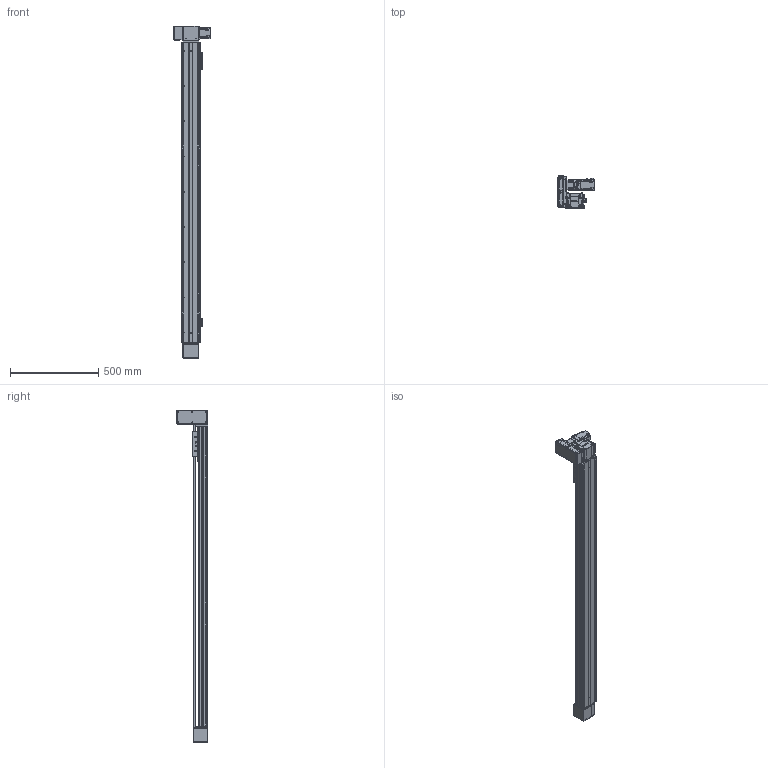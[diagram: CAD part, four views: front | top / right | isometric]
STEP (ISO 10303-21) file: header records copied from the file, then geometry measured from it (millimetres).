
FILE_DESCRIPTION(/* description */ ('MANUFACTURE'),/* implementation_level */ '2;1');
FILE_NAME(/* name */ '\\192.168.0.160\disk1\HAN SHIN Master\B-설계부문\C-표준\B-2024년\BC02-표준도면\+로봇 개선표준도면\홈페이지 표준 도면\홈페이지 최종 작업 폴더\3D\HB\HB90\HB90-UL2G-N-1500-R.stp',/* time_stamp */ '2025-06-03T12:56:08+09:00',/* author */ ('user'),/* organization */ (''),/* preprocessor_version */ 'ST-DEVELOPER v18.1',/* originating_system */ 'Autodesk Inventor 2022',/* authorisation */ 'LIP');
FILE_SCHEMA (('AUTOMOTIVE_DESIGN { 1 0 10303 214 3 1 1 }'));
Products named in the file (30): HSB90-UL2G-N-0500-R; HSB90 BASE; HS90 TABLE-SR20W; HSB90 FRONT HOUSING (Connecting Shaft); HSB90 REAR HOUSING; HSB90 COVER; UPCOVER; HSB55 TENSION PLATE; HG90STOPPER - 27L; HSB90 REAR PULLEY; NSK_6903; HSB55 REAR SHAFT; HSB55 ACRYL COVER; PGX62-H-1_3; hg-kr23_; MOTOR PLATE-200W(MITSUBISHI); HSB90 END COVER; HSB160 BEARING OVER; HSB160 SHAFT-1; NSK_6006; HR120 SENSOR DOG; hsr_ftht_A-M6F_grease_nipple_joint; NIPPLE CAP(신규); SENSOR BRK(EE-SX674A); EE_SX674A; HSB75 U MOTOR PLATE-N; HSB75 U BELT COVER; HR65-BELT COVER-COVER3; HR75-BELT COVER-COVER; HR75-BELT COVER-COVER2
Assembly tree (46 placements, depth 2):
  HSB90-UL2G-N-0500-R
    HSB90 BASE
    HS90 TABLE-SR20W
    HSB90 FRONT HOUSING (Connecting Shaft)
    HSB90 COVER  x2
    HSB90 REAR HOUSING
    UPCOVER
    HSB55 TENSION PLATE  x2
    HG90STOPPER - 27L  x4
    HSB90 REAR PULLEY
    NSK_6903  x2
    HSB55 REAR SHAFT
    HSB55 ACRYL COVER  x4
    PGX62-H-1_3
    hg-kr23_
    MOTOR PLATE-200W(MITSUBISHI)
    HSB90 END COVER
    HSB160 BEARING OVER
    HSB160 SHAFT-1
    NSK_6006  x2
    SENSOR BRK(EE-SX674A)  x3
    EE_SX674A  x3
    HR120 SENSOR DOG
    hsr_ftht_A-M6F_grease_nipple_joint  x2
    NIPPLE CAP(신규)  x2
    HSB75 U MOTOR PLATE-N
    HSB75 U BELT COVER
    HR75-BELT COVER-COVER2  x2
    HR65-BELT COVER-COVER3
    HR75-BELT COVER-COVER
Bounding box: 206.6 x 181.5 x 1885 mm (x, y, z)
Volume: 5626830.6 mm3; surface area: 1986603.6 mm2
Topology: 121 solids, 121 shells, 6283 faces, 17448 edges, 11509 vertices
Faces by surface type: plane 4732, cylinder 1123, cone 290, sphere 70, torus 49, bspline 19
Full cylindrical faces by diameter (mm): 2.013 x4, 2.459 x76, 3.242 x50, 3.3 x5, 3.4 x22, 3.5 x22, 4 x1, 4.134 x50, 4.2 x10, 4.5 x34, 4.917 x22, 5 x24, 5.5 x42, 5.6 x10, 5.8 x4, 5.9 x8, 6 x10, 6.5 x4, 7 x1, 8 x13, 8.5 x4, 9 x4, 9.5 x34, 14 x3, 14.2 x1, 15 x5, 16 x2, 16.2 x2, 17 x7, 19.8 x3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
Entity records: 142823 total; most frequent: CARTESIAN_POINT 28126, ORIENTED_EDGE 23790, DIRECTION 22927, EDGE_CURVE 11895, LINE 9033, VECTOR 9033, VERTEX_POINT 7926, AXIS2_PLACEMENT_3D 6947
